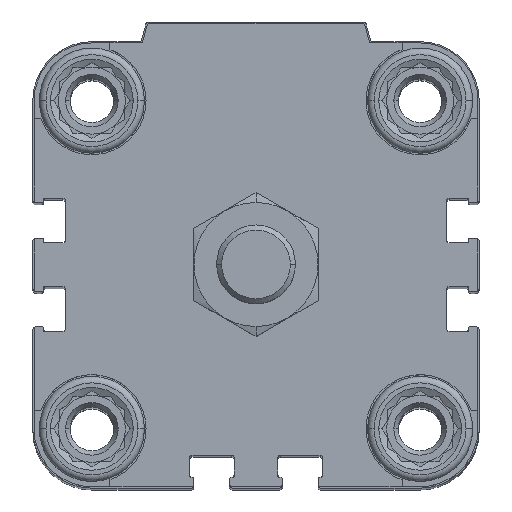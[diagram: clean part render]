
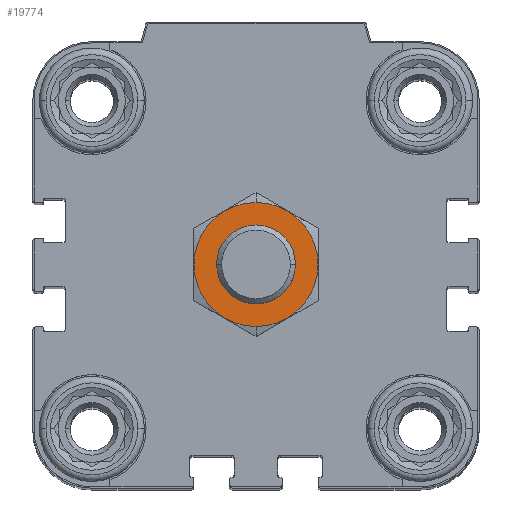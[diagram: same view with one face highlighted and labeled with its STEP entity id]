
A CAD part, top view. The second image highlights one B-rep face of the part: STEP entity #19774.
In plain terms, the highlighted planar face has unit normal (0, 0, 1).
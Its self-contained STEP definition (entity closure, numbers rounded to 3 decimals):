
#394 = ORIENTED_EDGE ( 'NONE', *, *, #23403, .T. ) ;
#889 = DIRECTION ( 'NONE',  ( 0., 0., -1. ) ) ;
#1003 = FACE_BOUND ( 'NONE', #12003, .T. ) ;
#2957 = FACE_OUTER_BOUND ( 'NONE', #21277, .T. ) ;
#4050 = VERTEX_POINT ( 'NONE', #17349 ) ;
#4449 = DIRECTION ( 'NONE',  ( 0., -1., 0. ) ) ;
#4922 = DIRECTION ( 'NONE',  ( 0., 0., -1. ) ) ;
#5480 = CARTESIAN_POINT ( 'NONE',  ( 0., 0., 18.5 ) ) ;
#6336 = CIRCLE ( 'NONE', #7524, 6. ) ;
#6403 = EDGE_CURVE ( 'NONE', #22026, #17067, #8628, .T. ) ;
#6447 = DIRECTION ( 'NONE',  ( 0., -1., 0. ) ) ;
#6634 = CARTESIAN_POINT ( 'NONE',  ( 0., 0., 18.5 ) ) ;
#7524 = AXIS2_PLACEMENT_3D ( 'NONE', #5480, #10989, #8908 ) ;
#7887 = ORIENTED_EDGE ( 'NONE', *, *, #19795, .F. ) ;
#8368 = CARTESIAN_POINT ( 'NONE',  ( 0., 0., 18.5 ) ) ;
#8628 = CIRCLE ( 'NONE', #22725, 9.45 ) ;
#8908 = DIRECTION ( 'NONE',  ( 0., -1., 0. ) ) ;
#9900 = CARTESIAN_POINT ( 'NONE',  ( 0., 0., 18.5 ) ) ;
#10649 = AXIS2_PLACEMENT_3D ( 'NONE', #15716, #889, #19628 ) ;
#10706 = CIRCLE ( 'NONE', #10649, 9.45 ) ;
#10989 = DIRECTION ( 'NONE',  ( 0., 0., -1. ) ) ;
#11001 = ORIENTED_EDGE ( 'NONE', *, *, #6403, .F. ) ;
#11666 = CARTESIAN_POINT ( 'NONE',  ( 0., 9.45, 18.5 ) ) ;
#12003 = EDGE_LOOP ( 'NONE', ( #394, #20855 ) ) ;
#12893 = EDGE_CURVE ( 'NONE', #16302, #4050, #14367, .T. ) ;
#13056 = AXIS2_PLACEMENT_3D ( 'NONE', #6634, #4922, #4449 ) ;
#13466 = CARTESIAN_POINT ( 'NONE',  ( 0., -9.45, 18.5 ) ) ;
#14117 = PLANE ( 'NONE',  #13056 ) ;
#14367 = CIRCLE ( 'NONE', #20233, 6. ) ;
#15645 = CARTESIAN_POINT ( 'NONE',  ( 0., -6., 18.5 ) ) ;
#15716 = CARTESIAN_POINT ( 'NONE',  ( 0., 0., 18.5 ) ) ;
#16302 = VERTEX_POINT ( 'NONE', #15645 ) ;
#17067 = VERTEX_POINT ( 'NONE', #11666 ) ;
#17349 = CARTESIAN_POINT ( 'NONE',  ( 0., 6., 18.5 ) ) ;
#19525 = DIRECTION ( 'NONE',  ( 0., 0., -1. ) ) ;
#19628 = DIRECTION ( 'NONE',  ( 0., -1., 0. ) ) ;
#19774 = ADVANCED_FACE ( 'NONE', ( #2957, #1003 ), #14117, .F. ) ;
#19795 = EDGE_CURVE ( 'NONE', #17067, #22026, #10706, .T. ) ;
#20233 = AXIS2_PLACEMENT_3D ( 'NONE', #9900, #23006, #6447 ) ;
#20855 = ORIENTED_EDGE ( 'NONE', *, *, #12893, .T. ) ;
#21277 = EDGE_LOOP ( 'NONE', ( #11001, #7887 ) ) ;
#22026 = VERTEX_POINT ( 'NONE', #13466 ) ;
#22725 = AXIS2_PLACEMENT_3D ( 'NONE', #8368, #19525, #23323 ) ;
#23006 = DIRECTION ( 'NONE',  ( 0., 0., -1. ) ) ;
#23323 = DIRECTION ( 'NONE',  ( 0., -1., 0. ) ) ;
#23403 = EDGE_CURVE ( 'NONE', #4050, #16302, #6336, .T. ) ;
